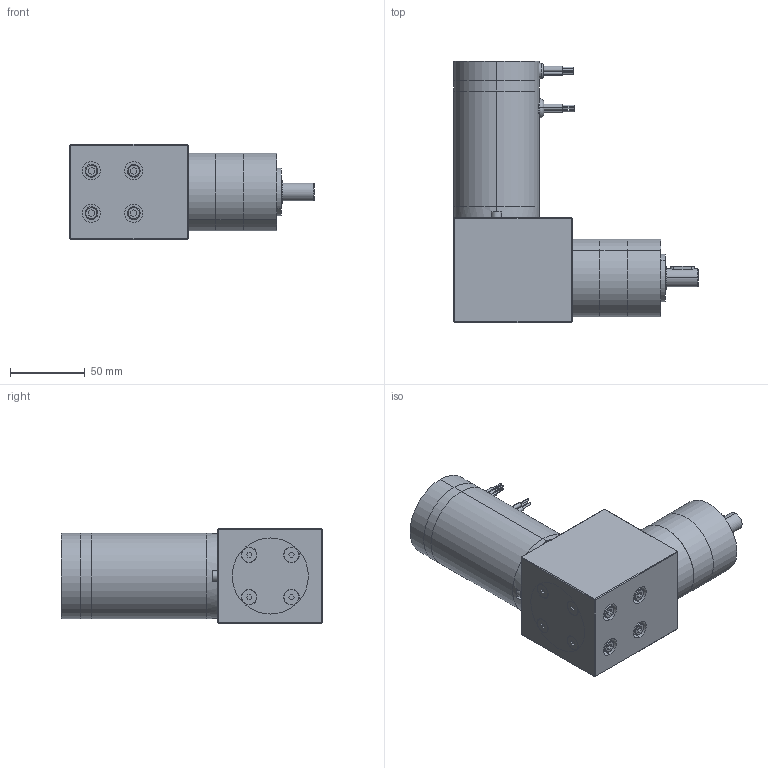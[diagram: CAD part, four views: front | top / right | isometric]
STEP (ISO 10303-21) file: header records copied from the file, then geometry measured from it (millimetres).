
FILE_DESCRIPTION (( 'STEP AP203' ), '1' );
FILE_NAME ('bl58487gra2.step', '2018-12-07T19:00:59', ( '' ), ( '' ), 'SwSTEP 2.0', 'SolidWorks 2017', '' );
FILE_SCHEMA (( 'CONFIG_CONTROL_DESIGN' ));
Length unit declared in the file: inch
Products named in the file (1): bl58487gra2
Bounding box: 163.27 x 174.42 x 63.5 mm (x, y, z)
Volume: 738004 mm3; surface area: 123865.2 mm2
Topology: 30 solids, 30 shells, 977 faces, 2170 edges, 1310 vertices
Faces by surface type: cylinder 360, cone 345, plane 267, torus 5
Entity records: 27079 total; most frequent: DIRECTION 5142, CARTESIAN_POINT 4636, ORIENTED_EDGE 4292, EDGE_CURVE 2146, AXIS2_PLACEMENT_3D 2030, VERTEX_POINT 1310, EDGE_LOOP 1100, VECTOR 1082
